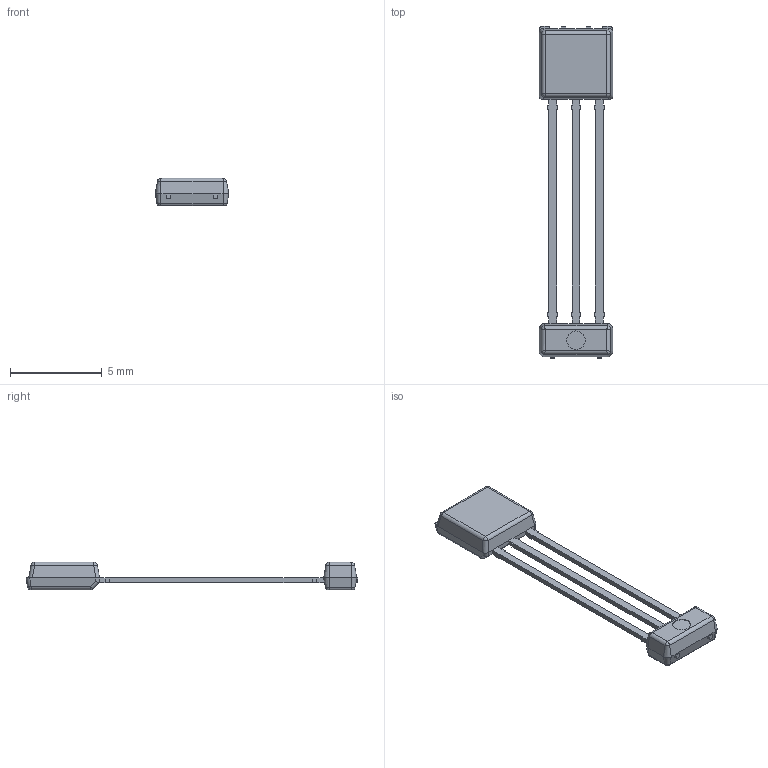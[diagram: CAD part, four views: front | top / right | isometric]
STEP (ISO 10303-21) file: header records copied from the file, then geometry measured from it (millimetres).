
FILE_DESCRIPTION (( 'STEP AP214' ), '1' );
FILE_NAME ('UC.STEP', '2016-10-25T18:24:31', ( '' ), ( '' ), 'SwSTEP 2.0', 'SolidWorks 2014', '' );
FILE_SCHEMA (( 'AUTOMOTIVE_DESIGN' ));
Length unit declared in the file: millimetre
Products named in the file (1): UC
Bounding box: 4 x 18.07 x 1.5 mm (x, y, z)
Volume: 34.6 mm3; surface area: 125.2 mm2
Topology: 1 solids, 1 shells, 170 faces, 425 edges, 252 vertices
Faces by surface type: plane 115, cylinder 31, sphere 8, cone 8, torus 4, bspline 4
Full cylindrical faces by diameter (mm): 1 x2, 2 x1
Entity records: 7360 total; most frequent: CARTESIAN_POINT 1521, ORIENTED_EDGE 836, DIRECTION 774, EDGE_CURVE 418, VECTOR 340, LINE 340, VERTEX_POINT 252, AXIS2_PLACEMENT_3D 217
